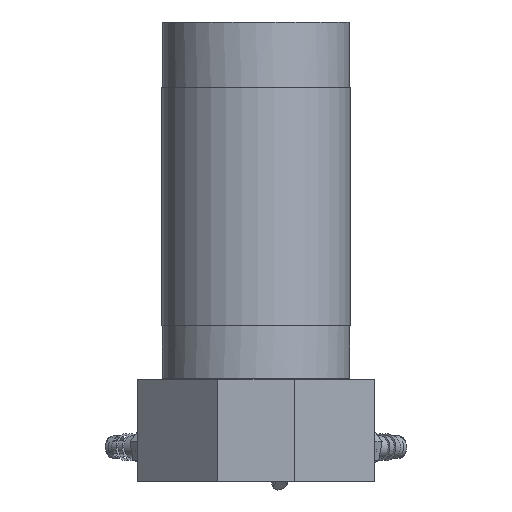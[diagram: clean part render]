
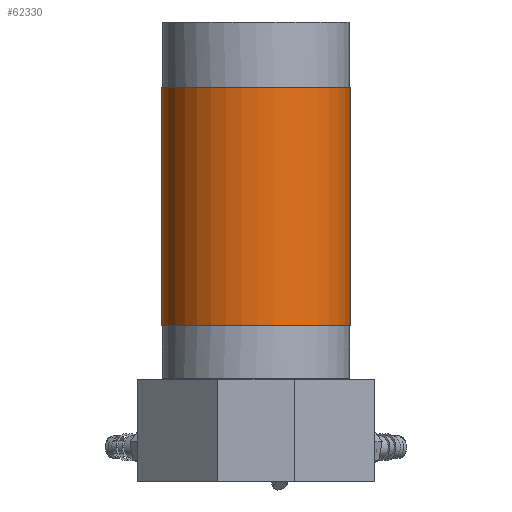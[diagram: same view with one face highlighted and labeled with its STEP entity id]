
A CAD part, left-side view. The second image highlights one B-rep face of the part: STEP entity #62330.
In plain terms, the highlighted cylindrical face has radius 17.59 mm (diameter 35.179 mm), a full revolution.
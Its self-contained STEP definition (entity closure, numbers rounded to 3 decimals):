
#9432=FACE_OUTER_BOUND('',#13388,.T.);
#13388=EDGE_LOOP('',(#50934,#50935,#50936,#50937));
#18229=CIRCLE('',#68246,17.59);
#18230=CIRCLE('',#68247,17.59);
#19595=LINE('',#172209,#21383);
#21383=VECTOR('',#80146,17.59);
#26278=VERTEX_POINT('',#172206);
#26279=VERTEX_POINT('',#172208);
#34716=EDGE_CURVE('',#26278,#26278,#18229,.T.);
#34717=EDGE_CURVE('',#26278,#26279,#19595,.T.);
#34718=EDGE_CURVE('',#26279,#26279,#18230,.T.);
#50934=ORIENTED_EDGE('',*,*,#34716,.T.);
#50935=ORIENTED_EDGE('',*,*,#34717,.T.);
#50936=ORIENTED_EDGE('',*,*,#34718,.F.);
#50937=ORIENTED_EDGE('',*,*,#34717,.F.);
#55230=CYLINDRICAL_SURFACE('',#68245,17.59);
#62330=ADVANCED_FACE('',(#9432),#55230,.T.);
#68245=AXIS2_PLACEMENT_3D('',#172205,#80142,#80143);
#68246=AXIS2_PLACEMENT_3D('',#172207,#80144,#80145);
#68247=AXIS2_PLACEMENT_3D('',#172210,#80147,#80148);
#80142=DIRECTION('center_axis',(0.,0.,
1.));
#80143=DIRECTION('ref_axis',(0.518,-0.855,0.));
#80144=DIRECTION('center_axis',(0.,0.,
-1.));
#80145=DIRECTION('ref_axis',(0.518,-0.855,0.));
#80146=DIRECTION('',(0.,0.,-1.));
#80147=DIRECTION('center_axis',(0.,0.,
-1.));
#80148=DIRECTION('ref_axis',(0.518,-0.855,0.));
#172205=CARTESIAN_POINT('Origin',(0.,0.,
29.019));
#172206=CARTESIAN_POINT('',(-9.117,15.042,73.469));
#172207=CARTESIAN_POINT('Origin',(0.,0.,
73.469));
#172208=CARTESIAN_POINT('',(-9.117,15.042,29.019));
#172209=CARTESIAN_POINT('',(-9.117,15.042,29.019));
#172210=CARTESIAN_POINT('Origin',(0.,0.,
29.019));
